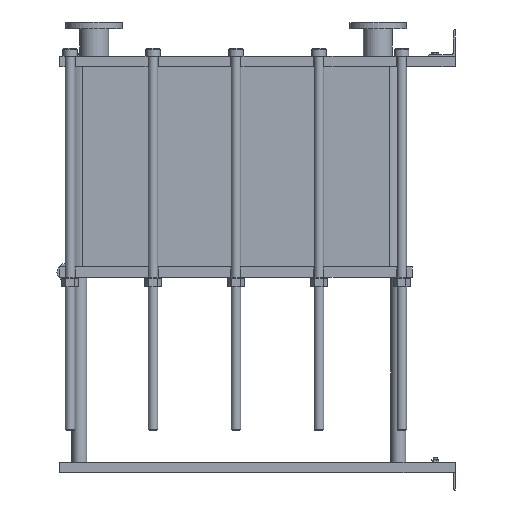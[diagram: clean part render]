
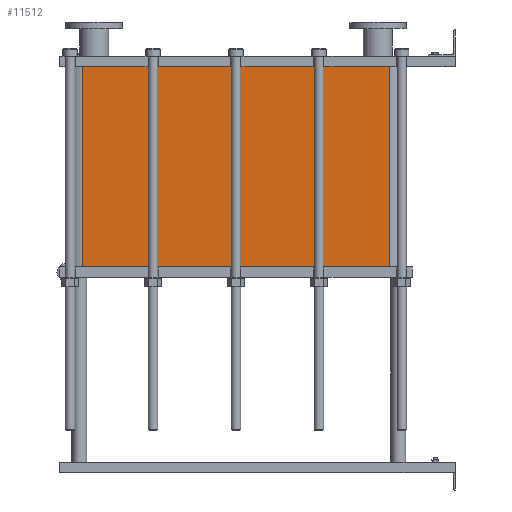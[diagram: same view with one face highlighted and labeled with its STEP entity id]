
A CAD part, left-side view. The second image highlights one B-rep face of the part: STEP entity #11512.
In plain terms, the highlighted planar face has unit normal (-1, 0, 0).
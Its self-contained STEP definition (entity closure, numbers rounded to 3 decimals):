
#1129=LINE('',#23232,#2102);
#1130=LINE('',#23236,#2103);
#1131=LINE('',#23238,#2104);
#1132=LINE('',#23239,#2105);
#2102=VECTOR('',#15887,10.);
#2103=VECTOR('',#15892,10.);
#2104=VECTOR('',#15893,10.);
#2105=VECTOR('',#15894,10.);
#3267=FACE_OUTER_BOUND('',#4093,.T.);
#4093=EDGE_LOOP('',(#10103,#10104,#10105,#10106));
#5642=VERTEX_POINT('',#23229);
#5643=VERTEX_POINT('',#23231);
#5644=VERTEX_POINT('',#23235);
#5645=VERTEX_POINT('',#23237);
#7159=EDGE_CURVE('',#5643,#5642,#1129,.T.);
#7161=EDGE_CURVE('',#5642,#5644,#1130,.T.);
#7162=EDGE_CURVE('',#5645,#5644,#1131,.T.);
#7163=EDGE_CURVE('',#5645,#5643,#1132,.T.);
#10103=ORIENTED_EDGE('',*,*,#7161,.T.);
#10104=ORIENTED_EDGE('',*,*,#7162,.F.);
#10105=ORIENTED_EDGE('',*,*,#7163,.T.);
#10106=ORIENTED_EDGE('',*,*,#7159,.T.);
#10857=PLANE('',#12751);
#11512=ADVANCED_FACE('',(#3267),#10857,.T.);
#12751=AXIS2_PLACEMENT_3D('',#23234,#15890,#15891);
#15887=DIRECTION('',(0.,0.,-1.));
#15890=DIRECTION('center_axis',(-1.,0.,0.));
#15891=DIRECTION('ref_axis',(0.,1.,0.));
#15892=DIRECTION('',(0.,-1.,0.));
#15893=DIRECTION('',(0.,0.,-1.));
#15894=DIRECTION('',(0.,1.,0.));
#23229=CARTESIAN_POINT('',(-200.,1414.,-759.));
#23231=CARTESIAN_POINT('',(-200.,1414.,0.));
#23232=CARTESIAN_POINT('',(-200.,1414.,0.));
#23234=CARTESIAN_POINT('Origin',(-200.,248.,0.));
#23235=CARTESIAN_POINT('',(-200.,248.,-759.));
#23236=CARTESIAN_POINT('',(-200.,539.5,-759.));
#23237=CARTESIAN_POINT('',(-200.,248.,0.));
#23238=CARTESIAN_POINT('',(-200.,248.,0.));
#23239=CARTESIAN_POINT('',(-200.,248.,0.));
